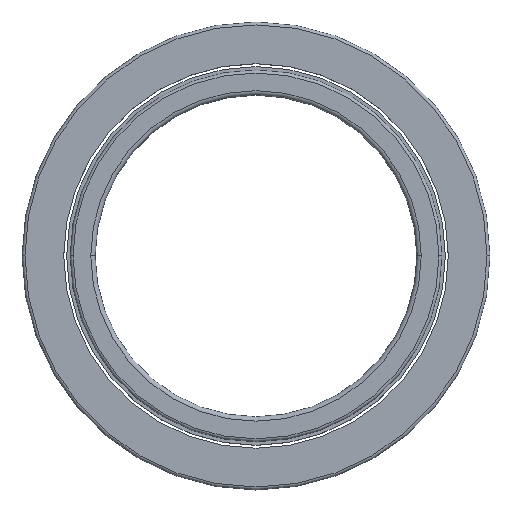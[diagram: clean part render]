
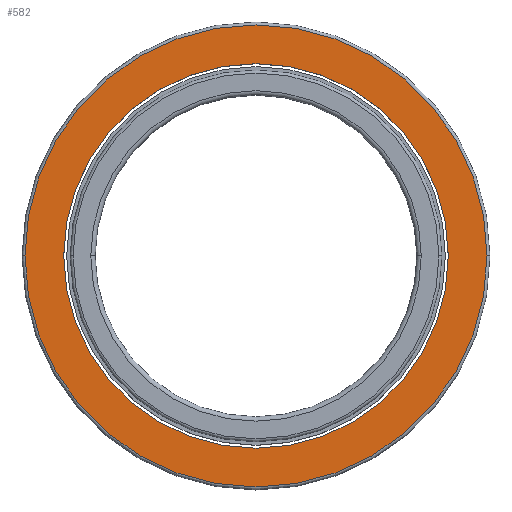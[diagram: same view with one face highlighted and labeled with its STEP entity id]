
A CAD part, top view. The second image highlights one B-rep face of the part: STEP entity #582.
In plain terms, the highlighted planar face has unit normal (0, 0, 1).
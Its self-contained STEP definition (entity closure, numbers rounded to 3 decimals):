
#55=CARTESIAN_POINT('',(0.,0.,10.));
#56=DIRECTION('',(0.,0.,1.));
#57=DIRECTION('',(-1.,0.,0.));
#58=AXIS2_PLACEMENT_3D('',#55,#56,#57);
#64=CARTESIAN_POINT('',(0.,0.,10.));
#65=DIRECTION('',(0.,0.,-1.));
#66=DIRECTION('',(-1.,0.,0.));
#67=AXIS2_PLACEMENT_3D('',#64,#65,#66);
#73=CARTESIAN_POINT('',(0.,0.,10.));
#74=DIRECTION('',(0.,0.,1.));
#75=DIRECTION('',(-1.,0.,0.));
#76=AXIS2_PLACEMENT_3D('',#73,#74,#75);
#78=CARTESIAN_POINT('',(0.,0.,10.));
#79=DIRECTION('',(0.,0.,-1.));
#80=DIRECTION('',(-1.,0.,0.));
#81=AXIS2_PLACEMENT_3D('',#78,#79,#80);
#379=CARTESIAN_POINT('',(-79.,0.,10.));
#380=VERTEX_POINT('',#379);
#381=CARTESIAN_POINT('',(-65.75,0.,10.));
#383=VERTEX_POINT('',#381);
#421=CARTESIAN_POINT('',(79.,0.,10.));
#422=VERTEX_POINT('',#421);
#423=CARTESIAN_POINT('',(65.75,0.,10.));
#425=VERTEX_POINT('',#423);
#567=CARTESIAN_POINT('',(0.,0.,10.));
#568=DIRECTION('',(0.,0.,1.));
#569=DIRECTION('',(-1.,0.,0.));
#570=AXIS2_PLACEMENT_3D('',#567,#568,#569);
#571=PLANE('',#570);
#573=ORIENTED_EDGE('',*,*,#572,.F.);
#575=ORIENTED_EDGE('',*,*,#574,.T.);
#576=EDGE_LOOP('',(#573,#575));
#577=FACE_OUTER_BOUND('',#576,.F.);
#578=ORIENTED_EDGE('',*,*,#553,.F.);
#579=ORIENTED_EDGE('',*,*,#535,.T.);
#580=EDGE_LOOP('',(#578,#579));
#581=FACE_BOUND('',#580,.F.);
#59=CIRCLE('',#58,65.75);
#68=CIRCLE('',#67,65.75);
#77=CIRCLE('',#76,79.);
#82=CIRCLE('',#81,79.);
#535=EDGE_CURVE('',#383,#425,#59,.T.);
#553=EDGE_CURVE('',#383,#425,#68,.T.);
#572=EDGE_CURVE('',#380,#422,#77,.T.);
#574=EDGE_CURVE('',#380,#422,#82,.T.);
#582=ADVANCED_FACE('',(#577,#581),#571,.T.);
